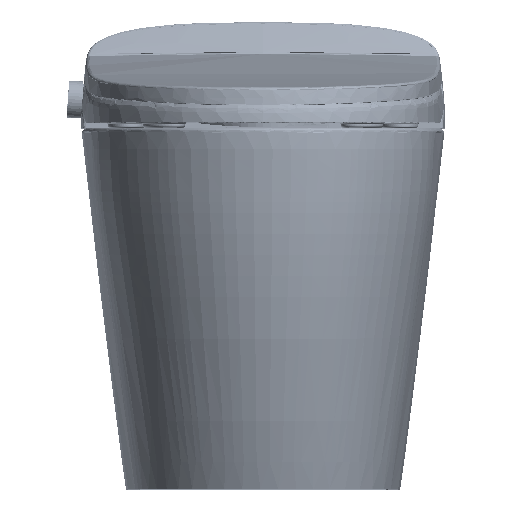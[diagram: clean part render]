
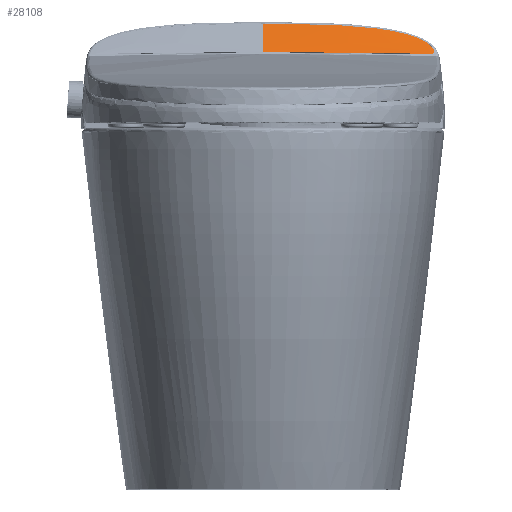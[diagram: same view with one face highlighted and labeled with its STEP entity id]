
A CAD part, top view. The second image highlights one B-rep face of the part: STEP entity #28108.
In plain terms, the highlighted free-form (B-spline) face has degree [3, 3] with [10, 4] control points.
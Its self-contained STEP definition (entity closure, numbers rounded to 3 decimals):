
#21207=FACE_OUTER_BOUND('',#39362,.T.);
#28108=ADVANCED_FACE('',(#21207),#32593,.T.);
#32593=B_SPLINE_SURFACE_WITH_KNOTS('',3,3,((#299846,#299847,#299848,#299849),
(#299850,#299851,#299852,#299853),(#299854,#299855,#299856,#299857),(#299858,
#299859,#299860,#299861),(#299862,#299863,#299864,#299865),(#299866,#299867,
#299868,#299869),(#299870,#299871,#299872,#299873),(#299874,#299875,#299876,
#299877),(#299878,#299879,#299880,#299881),(#299882,#299883,#299884,#299885)),
 .UNSPECIFIED.,.F.,.F.,.F.,(4,3,3,4),(4,4),(0.,0.25,0.5,1.),(0.,1.),.UNSPECIFIED.);
#39362=EDGE_LOOP('',(#62719,#62720,#62721,#62722,#62723));
#62719=ORIENTED_EDGE('',*,*,#103371,.F.);
#62720=ORIENTED_EDGE('',*,*,#103372,.T.);
#62721=ORIENTED_EDGE('',*,*,#103359,.T.);
#62722=ORIENTED_EDGE('',*,*,#103370,.F.);
#62723=ORIENTED_EDGE('',*,*,#103365,.F.);
#87714=VERTEX_POINT('',#299447);
#87715=VERTEX_POINT('',#299448);
#87720=VERTEX_POINT('',#299494);
#87721=VERTEX_POINT('',#299503);
#87723=VERTEX_POINT('',#299831);
#103359=EDGE_CURVE('',#87714,#87715,#118195,.T.);
#103365=EDGE_CURVE('',#87720,#87721,#118201,.T.);
#103370=EDGE_CURVE('',#87721,#87715,#118206,.T.);
#103371=EDGE_CURVE('',#87723,#87720,#118207,.T.);
#103372=EDGE_CURVE('',#87723,#87714,#118208,.T.);
#118195=B_SPLINE_CURVE_WITH_KNOTS('',3,(#299443,#299444,#299445,#299446),
 .UNSPECIFIED.,.F.,.F.,(4,4),(0.,1.),.UNSPECIFIED.);
#118201=B_SPLINE_CURVE_WITH_KNOTS('',3,(#299495,#299496,#299497,#299498,
#299499,#299500,#299501,#299502),.UNSPECIFIED.,.F.,.F.,(4,2,2,4),(0.,0.5,
0.75,1.),.UNSPECIFIED.);
#118206=B_SPLINE_CURVE_WITH_KNOTS('',3,(#299649,#299650,#299651,#299652),
 .UNSPECIFIED.,.F.,.F.,(4,4),(0.,1.),.UNSPECIFIED.);
#118207=B_SPLINE_CURVE_WITH_KNOTS('',3,(#299825,#299826,#299827,#299828,
#299829,#299830),.UNSPECIFIED.,.F.,.F.,(4,2,4),(0.,0.5,1.),.UNSPECIFIED.);
#118208=B_SPLINE_CURVE_WITH_KNOTS('',3,(#299832,#299833,#299834,#299835,
#299836,#299837,#299838,#299839,#299840,#299841,#299842,#299843,#299844,
#299845),.UNSPECIFIED.,.F.,.F.,(4,2,2,2,2,2,4),(0.,0.063,0.125,
0.25,0.5,0.75,1.),.UNSPECIFIED.);
#299443=CARTESIAN_POINT('',(41.085,0.434,36.461));
#299444=CARTESIAN_POINT('',(49.796,0.434,26.267));
#299445=CARTESIAN_POINT('',(58.537,0.434,16.039));
#299446=CARTESIAN_POINT('',(67.306,0.434,5.779));
#299447=CARTESIAN_POINT('',(41.085,0.434,36.461));
#299448=CARTESIAN_POINT('',(67.306,0.434,5.779));
#299494=CARTESIAN_POINT('',(55.958,184.722,8.269));
#299495=CARTESIAN_POINT('',(55.958,184.722,8.269));
#299496=CARTESIAN_POINT('',(56.773,185.17,7.331));
#299497=CARTESIAN_POINT('',(57.714,185.232,6.301));
#299498=CARTESIAN_POINT('',(59.015,184.543,4.957));
#299499=CARTESIAN_POINT('',(59.426,184.178,4.549));
#299500=CARTESIAN_POINT('',(60.049,183.145,3.98));
#299501=CARTESIAN_POINT('',(60.231,182.488,3.851));
#299502=CARTESIAN_POINT('',(60.283,181.819,3.865));
#299503=CARTESIAN_POINT('',(60.283,181.819,3.865));
#299649=CARTESIAN_POINT('',(60.283,181.819,3.865));
#299650=CARTESIAN_POINT('',(64.985,121.487,5.083));
#299651=CARTESIAN_POINT('',(67.304,60.961,5.78));
#299652=CARTESIAN_POINT('',(67.306,0.434,5.779));
#299825=CARTESIAN_POINT('',(49.913,177.453,15.685));
#299826=CARTESIAN_POINT('',(50.715,178.986,14.633));
#299827=CARTESIAN_POINT('',(51.622,180.416,13.48));
#299828=CARTESIAN_POINT('',(53.632,182.879,11.009));
#299829=CARTESIAN_POINT('',(54.749,183.891,9.678));
#299830=CARTESIAN_POINT('',(55.958,184.722,8.269));
#299831=CARTESIAN_POINT('',(49.913,177.453,15.685));
#299832=CARTESIAN_POINT('',(49.913,177.453,15.685));
#299833=CARTESIAN_POINT('',(48.451,174.659,17.601));
#299834=CARTESIAN_POINT('',(47.324,171.554,19.19));
#299835=CARTESIAN_POINT('',(45.445,164.987,21.992));
#299836=CARTESIAN_POINT('',(44.698,161.521,23.198));
#299837=CARTESIAN_POINT('',(42.83,150.757,26.424));
#299838=CARTESIAN_POINT('',(42.111,143.411,27.98));
#299839=CARTESIAN_POINT('',(40.589,121.191,31.809));
#299840=CARTESIAN_POINT('',(40.426,106.091,33.236));
#299841=CARTESIAN_POINT('',(40.414,75.958,35.229));
#299842=CARTESIAN_POINT('',(40.609,60.857,35.755));
#299843=CARTESIAN_POINT('',(40.94,30.649,36.375));
#299844=CARTESIAN_POINT('',(41.083,15.543,36.46));
#299845=CARTESIAN_POINT('',(41.085,0.434,36.461));
#299846=CARTESIAN_POINT('',(30.332,186.184,35.989));
#299847=CARTESIAN_POINT('',(40.258,186.203,25.187));
#299848=CARTESIAN_POINT('',(50.184,186.221,14.384));
#299849=CARTESIAN_POINT('',(60.111,186.239,3.582));
#299850=CARTESIAN_POINT('',(32.147,170.689,36.105));
#299851=CARTESIAN_POINT('',(41.883,170.654,25.372));
#299852=CARTESIAN_POINT('',(51.62,170.62,14.639));
#299853=CARTESIAN_POINT('',(61.356,170.586,3.906));
#299854=CARTESIAN_POINT('',(33.724,155.164,36.192));
#299855=CARTESIAN_POINT('',(43.298,155.082,25.528));
#299856=CARTESIAN_POINT('',(52.872,155.001,14.865));
#299857=CARTESIAN_POINT('',(62.446,154.919,4.202));
#299858=CARTESIAN_POINT('',(35.053,139.616,36.277));
#299859=CARTESIAN_POINT('',(44.493,139.492,25.671));
#299860=CARTESIAN_POINT('',(53.933,139.367,15.065));
#299861=CARTESIAN_POINT('',(63.373,139.242,4.458));
#299862=CARTESIAN_POINT('',(36.383,124.069,36.363));
#299863=CARTESIAN_POINT('',(45.689,123.901,25.814));
#299864=CARTESIAN_POINT('',(54.994,123.733,15.264));
#299865=CARTESIAN_POINT('',(64.3,123.565,4.715));
#299866=CARTESIAN_POINT('',(37.481,108.501,36.43));
#299867=CARTESIAN_POINT('',(46.676,108.294,25.931));
#299868=CARTESIAN_POINT('',(55.872,108.086,15.431));
#299869=CARTESIAN_POINT('',(65.068,107.878,4.932));
#299870=CARTESIAN_POINT('',(38.353,92.92,36.485));
#299871=CARTESIAN_POINT('',(47.462,92.675,26.023));
#299872=CARTESIAN_POINT('',(56.57,92.429,15.562));
#299873=CARTESIAN_POINT('',(65.679,92.184,5.101));
#299874=CARTESIAN_POINT('',(40.097,61.759,36.593));
#299875=CARTESIAN_POINT('',(49.032,61.438,26.209));
#299876=CARTESIAN_POINT('',(57.967,61.117,15.824));
#299877=CARTESIAN_POINT('',(66.903,60.796,5.44));
#299878=CARTESIAN_POINT('',(40.944,30.545,36.646));
#299879=CARTESIAN_POINT('',(49.796,30.157,26.297));
#299880=CARTESIAN_POINT('',(58.647,29.769,15.947));
#299881=CARTESIAN_POINT('',(67.499,29.381,5.598));
#299882=CARTESIAN_POINT('',(40.927,-0.668,36.645));
#299883=CARTESIAN_POINT('',(49.774,-1.123,26.293));
#299884=CARTESIAN_POINT('',(58.62,-1.578,15.941));
#299885=CARTESIAN_POINT('',(67.467,-2.033,5.589));
